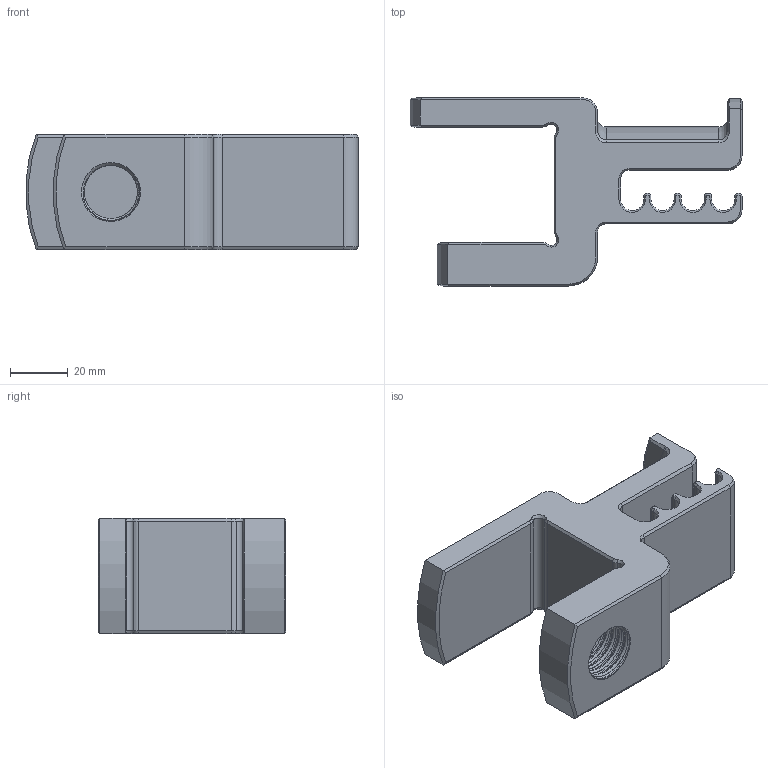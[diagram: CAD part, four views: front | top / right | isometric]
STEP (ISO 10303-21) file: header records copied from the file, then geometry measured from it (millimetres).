
FILE_DESCRIPTION(/* description */ ('Enter Title Here'),/* implementation_level */ '2;1');
FILE_NAME(/* name */ 'Hobby_HeadphoneHolder_Clamp.stp',/* time_stamp */ '2023-08-24T18:36:09+01:00',/* author */ ('kwzf494'),/* organization */ ('AstraZeneca'),/* preprocessor_version */ 'ST-DEVELOPER v19.2',/* originating_system */ 'Autodesk Inventor 2023',/* authorisation */ 'Bryan Windus-Smith');
FILE_SCHEMA (('CONFIG_CONTROL_DESIGN'));
Length unit declared in the file: millimetre
Products named in the file (1): Hobby_HeadphoneHolder_Clamp
Bounding box: 114.85 x 65 x 40 mm (x, y, z)
Volume: 121374.8 mm3; surface area: 28367.3 mm2
Topology: 1 solids, 1 shells, 183 faces, 435 edges, 254 vertices
Faces by surface type: plane 76, cone 56, cylinder 35, bspline 14, torus 2
Full cylindrical faces by diameter (mm): 20.4 x5
Entity records: 7868 total; most frequent: CARTESIAN_POINT 3721, ORIENTED_EDGE 870, DIRECTION 832, EDGE_CURVE 435, AXIS2_PLACEMENT_3D 288, LINE 256, VECTOR 256, VERTEX_POINT 254
